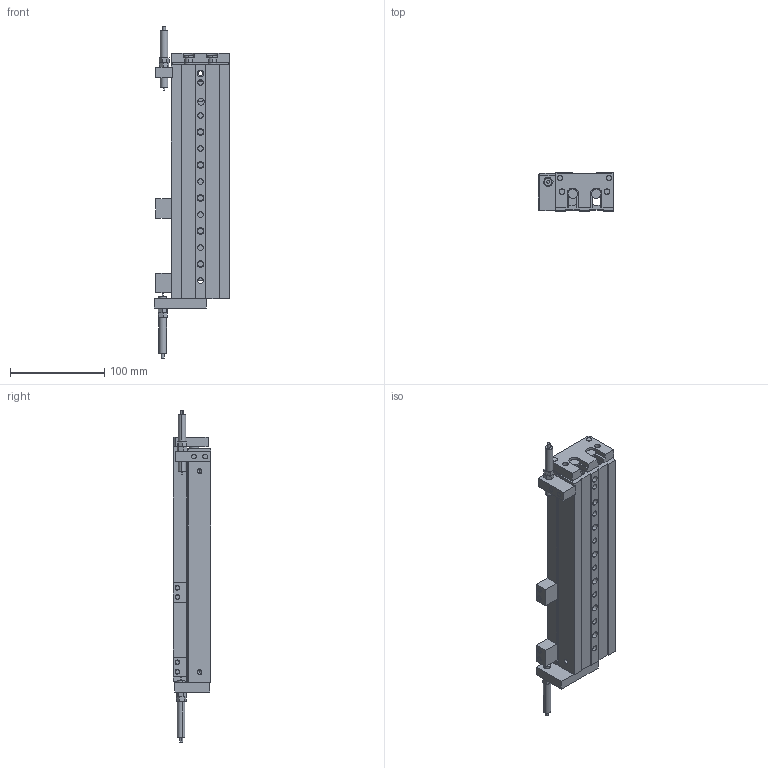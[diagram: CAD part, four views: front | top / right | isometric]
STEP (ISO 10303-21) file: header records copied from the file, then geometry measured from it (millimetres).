
FILE_DESCRIPTION (( 'STEP AP203' ), '1' );
FILE_NAME ('GDX 16-125.STEP', '2013-02-25T15:30:07', ( 'Conseil Régional Haute-Normandie' ), ( 'Conseil Régional Haute-Normandie' ), 'SwSTEP 2.0', 'SolidWorks 2010', '' );
FILE_SCHEMA (( 'CONFIG_CONTROL_DESIGN' ));
Length unit declared in the file: millimetre
Products named in the file (14): GDX 16-125; Pièce5 GDX16-10_Default; Pièce 4 GDX16-10; Pièce12 GDX16-10_Default; Pièce9 GDX16-10_Default; Pièce8 GDX16-10_Default; GDX25-10 Pièce14_Default; Pièce11 GDX16-50_Default; Pièce3 GDX16-10_Default; Pièce10 GDX16-10_Default; Pièce1 GDX 16-125_Default; Pièce2 GDX16-125_Default; Pièce6 GDX16-125_Default; Pièce7 GDX16-125_Default
Assembly tree (30 placements, depth 2):
  GDX 16-125
    Pièce3 GDX16-10_Default  x2
    Pièce12 GDX16-10_Default  x4
    Pièce5 GDX16-10_Default  x2
    Pièce1 GDX 16-125_Default
    Pièce10 GDX16-10_Default  x10
    GDX25-10 Pièce14_Default  x2
    Pièce2 GDX16-125_Default  x2
    Pièce11 GDX16-50_Default  x2
    Pièce9 GDX16-10_Default
    Pièce 4 GDX16-10
    Pièce8 GDX16-10_Default
    Pièce7 GDX16-125_Default
    Pièce6 GDX16-125_Default
Bounding box: 80 x 40 x 351.82 mm (x, y, z)
Volume: 497986.4 mm3; surface area: 195727.2 mm2
Topology: 30 solids, 30 shells, 840 faces, 2132 edges, 1398 vertices
Faces by surface type: plane 415, cylinder 264, bspline 133, cone 28
Entity records: 33688 total; most frequent: CARTESIAN_POINT 14997, ORIENTED_EDGE 3596, DIRECTION 3098, EDGE_CURVE 1798, VERTEX_POINT 1194, LINE 1144, VECTOR 1144, AXIS2_PLACEMENT_3D 977
